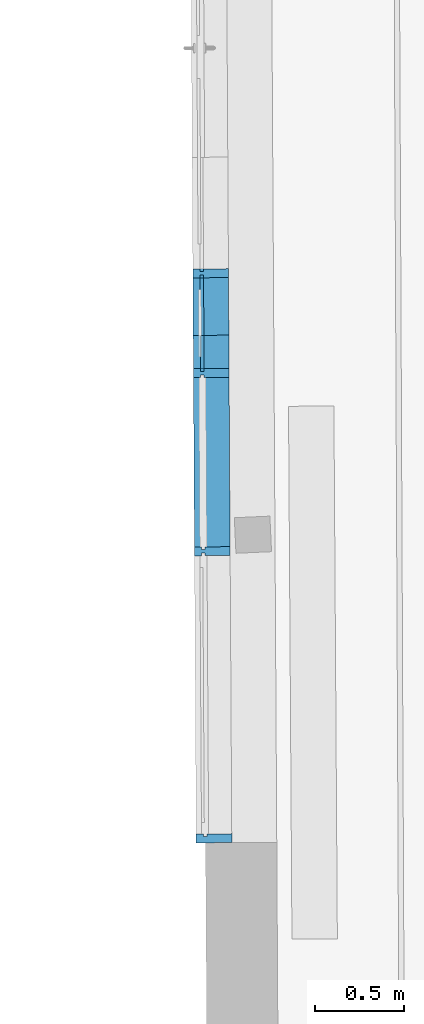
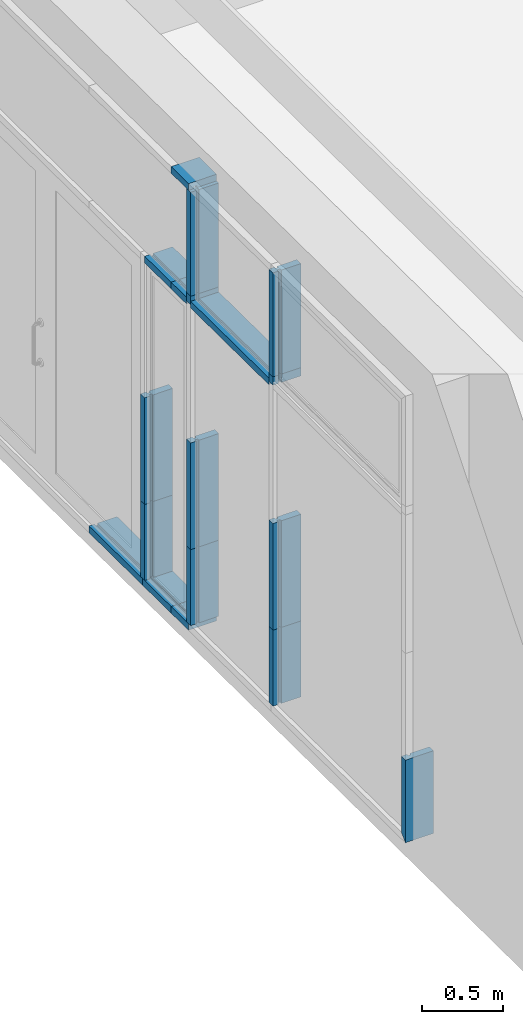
# One storey, part 150 of 196: 18 building element parts, 1 element without a shape of its own.
"""IFC2X3 building model written with IfcOpenShell, lengths in metres."""

import ifcopenshell
import ifcopenshell.guid

model = None  # the IFC model being written
_history = None  # IfcOwnerHistory: only IFC2X3 demands one
_inside = {}  # id of a spatial element -> (the spatial element, [elements in it])
_under = {}  # id of a project, library or spatial element -> (it, [spatial elements below it])
_declared = {}  # id of a project -> (the project, [libraries it declares])
_typed = {}  # id of a type object -> (the type object, [elements of that type])
_made_of = {}  # id of a material, layer set ... -> (it, [elements and type objects made of it])


def new_model(schema):
    """Start an empty IFC model of exactly this schema.

    Asked for "IFC4X3", IfcOpenShell would pick the latest addendum, in which some entities
    have other attributes; the version numbers below select the first issue.
    IFC2X3 requires an IfcOwnerHistory on every rooted entity: one is made here for all.
    """
    global model, _history
    if schema == "IFC4X3":
        model = ifcopenshell.file(schema_version=(4, 3, 0, 0))
    else:
        model = ifcopenshell.file(schema=schema)
    _inside.clear()
    _under.clear()
    _declared.clear()
    _typed.clear()
    _made_of.clear()
    _history = None
    if model.schema == "IFC2X3":
        org = make("IfcOrganization", Name="unknown")
        user = make(
            "IfcPersonAndOrganization",
            ThePerson=make("IfcPerson", FamilyName="unknown"),
            TheOrganization=org,
        )
        app = make(
            "IfcApplication",
            ApplicationDeveloper=org,
            Version="unknown",
            ApplicationFullName="unknown",
            ApplicationIdentifier="unknown",
        )
        _history = make(
            "IfcOwnerHistory",
            OwningUser=user,
            OwningApplication=app,
            ChangeAction="ADDED",
            CreationDate=0,
        )
    return model


def make(cls, **values):
    """One entity of the class cls with the attributes given. An attribute that is None is left unset."""
    return model.create_entity(
        cls, **{name: value for name, value in values.items() if value is not None}
    )


def entity(cls, *values):
    """Any entity or typed value of the class cls, its attributes in the order of the schema. None: left unset."""
    e = model.create_entity(cls)
    for i, value in enumerate(values):
        if value is not None:
            e[i] = value
    return e


def rooted(cls, **values):
    """An entity with a GlobalId (a new one), such as an element, a storey or a relation."""
    return make(cls, GlobalId=ifcopenshell.guid.new(), OwnerHistory=_history, **values)


def si_unit(unit_type, name, prefix=None):
    """IfcSIUnit, for example si_unit("LENGTHUNIT", "METRE", prefix="MILLI")."""
    return make("IfcSIUnit", UnitType=unit_type, Prefix=prefix, Name=name)


def converted_unit(unit_type, name, factor, base, dimensions=None, offset=None):
    """IfcConversionBasedUnit, such as the inch: factor (a typed value) times the base unit."""
    return make(
        "IfcConversionBasedUnit"
        if offset is None
        else "IfcConversionBasedUnitWithOffset",
        ConversionOffset=offset,
        Dimensions=None
        if dimensions is None
        else entity("IfcDimensionalExponents", *dimensions),
        UnitType=unit_type,
        Name=name,
        ConversionFactor=make(
            "IfcMeasureWithUnit", ValueComponent=factor, UnitComponent=base
        ),
    )


def derived_unit(unit_type, elements):
    """IfcDerivedUnit: a product of units, each with its exponent."""
    return make(
        "IfcDerivedUnit",
        Elements=[
            make("IfcDerivedUnitElement", Unit=unit, Exponent=power)
            for unit, power in elements
        ],
        UnitType=unit_type,
    )


def money_unit(currency):
    """IfcMonetaryUnit."""
    return make("IfcMonetaryUnit", Currency=currency)


def assignment(units):
    """IfcUnitAssignment: the units of a project."""
    return None if units is None else make("IfcUnitAssignment", Units=units)


def point(xyz):
    """IfcCartesianPoint."""
    return None if xyz is None else make("IfcCartesianPoint", Coordinates=xyz)


def direction(xyz):
    """IfcDirection."""
    return None if xyz is None else make("IfcDirection", DirectionRatios=xyz)


def frame(location, z_axis=None, x_axis=None):
    """IfcAxis2Placement3D, a coordinate frame: its origin and axes. An axis left out is left unset."""
    return make(
        "IfcAxis2Placement3D",
        Location=point(location),
        Axis=direction(z_axis),
        RefDirection=direction(x_axis),
    )


def origin_with_axes():
    """The frame at (0, 0, 0) with the z axis (0, 0, 1) and the x axis (1, 0, 0) written out."""
    return frame((0.0, 0.0, 0.0), z_axis=(0.0, 0.0, 1.0), x_axis=(1.0, 0.0, 0.0))


def place(relative_to, where):
    """IfcLocalPlacement: puts the frame where relative to a parent placement (None: the world)."""
    return make(
        "IfcLocalPlacement", PlacementRelTo=relative_to, RelativePlacement=where
    )


def context(
    kind, dimensions, precision=None, world=None, true_north=None, identifier=None
):
    """IfcGeometricRepresentationContext, for example the 3D "Model" context."""
    return make(
        "IfcGeometricRepresentationContext",
        ContextIdentifier=identifier,
        ContextType=kind,
        CoordinateSpaceDimension=dimensions,
        Precision=precision,
        WorldCoordinateSystem=world,
        TrueNorth=true_north,
    )


def subcontext(parent, identifier, kind, view, scale=None):
    """IfcGeometricRepresentationSubContext, for example "Body" below "Model"."""
    return make(
        "IfcGeometricRepresentationSubContext",
        ContextIdentifier=identifier,
        ContextType=kind,
        ParentContext=parent,
        TargetScale=scale,
        TargetView=view,
    )


def project(units=None, contexts=None):
    """IfcProject with its units and contexts."""
    return rooted(
        "IfcProject",
        Name="project",
        RepresentationContexts=contexts,
        UnitsInContext=assignment(units),
    )


def spatial(cls, under=None, at=None, **own):
    """A site, building, storey or space (cls), placed at a placement, below another one or the project."""
    s = rooted(cls, ObjectPlacement=at, **own)
    if under is not None:
        _under.setdefault(under.id(), (under, []))[1].append(s)
    return s


def faces_of(points, faces, orient=None, outer=None):
    """IfcFace entities. A face is a list of loops; a loop is a list of indices into points, from 0.

    orient and outer hold one flag for each loop. By default every Orientation is true, the
    first loop of a face is its IfcFaceOuterBound and the others are IfcFaceBound.
    """
    made = []
    for i, loops in enumerate(faces):
        bounds = []
        for j, loop in enumerate(loops):
            is_outer = j == 0 if outer is None else outer[i][j]
            bounds.append(
                make(
                    "IfcFaceOuterBound" if is_outer else "IfcFaceBound",
                    Bound=make("IfcPolyLoop", Polygon=[points[k] for k in loop]),
                    Orientation=True if orient is None else orient[i][j],
                )
            )
        made.append(make("IfcFace", Bounds=bounds))
    return made


def faceted_brep(points, faces, orient=None, outer=None, voids=None):
    """IfcFacetedBrep: a solid bounded by flat faces; with voids (closed shells), ...WithVoids."""
    shared = [point(p) for p in points]
    hull = make("IfcClosedShell", CfsFaces=faces_of(shared, faces, orient, outer))
    if voids is None:
        return make("IfcFacetedBrep", Outer=hull)
    return make(
        "IfcFacetedBrepWithVoids",
        Outer=hull,
        Voids=[
            make(cls, CfsFaces=faces_of(shared, fs, o, b)) for cls, fs, o, b in voids
        ],
    )


def shape(context_of_items, identifier, shape_type, items):
    """IfcShapeRepresentation: the items that make up one representation, for example the "Body"."""
    return make(
        "IfcShapeRepresentation",
        ContextOfItems=context_of_items,
        RepresentationIdentifier=identifier,
        RepresentationType=shape_type,
        Items=items,
    )


def material(Name=None, Category=None):
    """IfcMaterial."""
    return make("IfcMaterial", Name=Name, Category=Category)


def made_of(thing, what):
    """Note that an element or type object is made of a material, layer set ...; save() writes the relation."""
    if what is not None:
        _made_of.setdefault(what.id(), (what, []))[1].append(thing)
    return thing


def type_object(cls, material=None, **own):
    """A type object (cls), such as IfcWallType, which elements share."""
    return made_of(rooted(cls, **own), material)


def element(
    cls,
    number,
    at=None,
    inside=None,
    cuts=None,
    type_object=None,
    material=None,
    context=None,
    identifier="Body",
    shape_type=None,
    held_by="IfcProductDefinitionShape",
    body=None,
    shapes=None,
    **own,
):
    """One element of the class cls, such as IfcWall. Its Tag is "e" and its number.

    at: its placement. inside: the storey or other place that contains it. cuts: it is an
    opening in that element (IfcRelVoidsElement). A single representation is given by context,
    identifier, shape_type and body (its items); several are given by shapes. held_by: the class
    of the entity that holds the representations. save() writes the other relations.
    """
    e = rooted(cls, Tag="e%d" % number, ObjectPlacement=at, **own)
    if body is not None:
        shapes = [shape(context, identifier, shape_type, body)]
    if shapes is not None:
        e.Representation = make(held_by, Representations=shapes)
    if inside is not None:
        _inside.setdefault(inside.id(), (inside, []))[1].append(e)
    if cuts is not None:
        rooted(
            "IfcRelVoidsElement", RelatingBuildingElement=cuts, RelatedOpeningElement=e
        )
    if type_object is not None:
        _typed.setdefault(type_object.id(), (type_object, []))[1].append(e)
    return made_of(e, material)


def aggregate(whole, parts):
    """IfcRelAggregates: a whole, such as a stair, and the parts it consists of."""
    return rooted("IfcRelAggregates", RelatingObject=whole, RelatedObjects=parts)


def save(model, path):
    """Write the relations noted so far, then the file.

    IfcRelAggregates (storeys below a building ...), IfcRelContainedInSpatialStructure (elements
    in a storey), IfcRelDefinesByType, IfcRelAssociatesMaterial and IfcRelDeclares: one each for
    every whole, place, type object, material and project.
    """
    for whole, parts in _under.values():
        aggregate(whole, parts)
    for where, things in _inside.values():
        rooted(
            "IfcRelContainedInSpatialStructure",
            RelatedElements=things,
            RelatingStructure=where,
        )
    for kind, things in _typed.values():
        rooted("IfcRelDefinesByType", RelatedObjects=things, RelatingType=kind)
    for what, things in _made_of.values():
        rooted("IfcRelAssociatesMaterial", RelatedObjects=things, RelatingMaterial=what)
    for by, libraries in _declared.values():
        rooted("IfcRelDeclares", RelatingContext=by, RelatedDefinitions=libraries)
    model.write(path)


model = new_model("IFC2X3")

# Units and contexts
model_context = context("Model", 3, precision=1e-05, world=origin_with_axes(), true_north=direction((0.0, 1.0)))
body_context = subcontext(model_context, "Body", "Model", "MODEL_VIEW")
ifc_project = project(units=[si_unit("LENGTHUNIT", "METRE"), si_unit("AREAUNIT", "SQUARE_METRE"), si_unit("VOLUMEUNIT", "CUBIC_METRE"), converted_unit("PLANEANGLEUNIT", "DEGREE", entity("IfcPlaneAngleMeasure", 0.0174532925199), si_unit("PLANEANGLEUNIT", "RADIAN"), dimensions=[0, 0, 0, 0, 0, 0, 0]), money_unit("EUR"), converted_unit("TIMEUNIT", "Year", entity("IfcTimeMeasure", 31556926.0), si_unit("TIMEUNIT", "SECOND"), dimensions=[0, 0, 1, 0, 0, 0, 0]), si_unit("MASSUNIT", "GRAM", prefix="KILO"), si_unit("THERMODYNAMICTEMPERATUREUNIT", "DEGREE_CELSIUS"), si_unit("LUMINOUSINTENSITYUNIT", "LUMEN"), si_unit("ENERGYUNIT", "JOULE", prefix="MEGA"), derived_unit("THERMALCONDUCTANCEUNIT", [(si_unit("POWERUNIT", "WATT"), 1), (si_unit("LENGTHUNIT", "METRE"), -1), (si_unit("THERMODYNAMICTEMPERATUREUNIT", "KELVIN"), -1)]), derived_unit("SPECIFICHEATCAPACITYUNIT", [(si_unit("ENERGYUNIT", "JOULE"), 1), (si_unit("MASSUNIT", "GRAM", prefix="KILO"), -1), (si_unit("THERMODYNAMICTEMPERATUREUNIT", "KELVIN"), -1)]), derived_unit("MASSDENSITYUNIT", [(si_unit("MASSUNIT", "GRAM", prefix="KILO"), 1), (si_unit("VOLUMEUNIT", "CUBIC_METRE"), -1)])], contexts=[model_context])

# Site, building, storey
site_placement = place(None, origin_with_axes())
site = spatial("IfcSite", under=ifc_project, at=site_placement, Name="Gelände", CompositionType="ELEMENT")
building_placement = place(site_placement, origin_with_axes())
building = spatial("IfcBuilding", under=site, at=building_placement, Name="Gebäude", CompositionType="ELEMENT")
storey_placement = place(building_placement, frame((0.0, 0.0, -3.0), z_axis=(0.0, 0.0, 1.0), x_axis=(1.0, 0.0, 0.0)))
storey = spatial("IfcBuildingStorey", under=building, at=storey_placement, Name="KELLERGESCHOSS", CompositionType="ELEMENT", Elevation=-3.0)

# Proxy, building element parts
building_element_proxy_type = type_object("IfcBuildingElementProxyType", Name="Fassadentyp", PredefinedType="NOTDEFINED")
proxy_placement = place(storey_placement, frame((-34.8766751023, 40.9954775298, 0.421025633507), z_axis=(0.0, 0.0, 1.0), x_axis=(1.0, 0.0, 0.0)))
proxy = element("IfcBuildingElementProxy", 1, at=proxy_placement, inside=storey, type_object=building_element_proxy_type, Name="Fassade-002")
ifc_material = material(Name="53_Metall, Aluminium")
building_element_part_1_placement = place(proxy_placement, origin_with_axes())
building_element_part_1 = element("IfcBuildingElementPart", 2, at=building_element_part_1_placement, material=ifc_material, Name="53_Metall, Aluminium", context=body_context, shape_type="Brep", body=[
    faceted_brep([(0.0252966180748, -2.60816966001, 0.0499999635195), (0.0252086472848, -2.59316991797, 0.0499999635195), (0.165206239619, -2.59234885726, 0.0499999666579), (0.165499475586, -2.64234799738, 0.0499999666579), (0.0255018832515, -2.64316905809, 0.0499999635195), (0.0254139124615, -2.62816931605, 0.0499999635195), (0.00541425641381, -2.62828661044, 0.0499999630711), (0.00550222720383, -2.64328635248, 0.0499999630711), (-0.0344970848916, -2.64352094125, 0.0499999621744), (-0.0347903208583, -2.59352180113, 0.0499999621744), (0.00520899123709, -2.59328721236, 0.0499999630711), (0.00529696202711, -2.60828695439, 0.0499999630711), (0.0252966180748, -2.60816966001, 0.619999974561), (0.0252086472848, -2.59316991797, 0.619999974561), (0.165206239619, -2.59234885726, 0.619999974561), (0.165499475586, -2.64234799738, 0.619999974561), (0.0255018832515, -2.64316905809, 0.619999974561), (0.0254139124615, -2.62816931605, 0.619999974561), (0.00541425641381, -2.62828661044, 0.619999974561), (0.00550222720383, -2.64328635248, 0.619999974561), (-0.0344970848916, -2.64352094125, 0.619999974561), (-0.0347903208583, -2.59352180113, 0.619999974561), (0.00520899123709, -2.59328721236, 0.619999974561), (0.00529696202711, -2.60828695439, 0.619999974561)], [[[0, 1, 2, 3, 4, 5, 6, 7, 8, 9, 10, 11]], [[1, 0, 12, 13]], [[1, 13, 14, 2]], [[3, 2, 14, 15]], [[4, 3, 15, 16]], [[4, 16, 17, 5]], [[5, 17, 18, 6]], [[7, 6, 18, 19]], [[19, 20, 8, 7]], [[9, 8, 20, 21]], [[22, 10, 9, 21]], [[11, 10, 22, 23]], [[0, 11, 23, 12]], [[23, 22, 21, 20, 19, 18, 17, 16, 15, 14, 13, 12]]]),
])
building_element_part_2_placement = place(proxy_placement, origin_with_axes())
building_element_part_2 = element("IfcBuildingElementPart", 3, at=building_element_part_2_placement, material=ifc_material, Name="53_Metall, Aluminium", context=body_context, shape_type="Brep", body=[
    faceted_brep([(0.0182412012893, -1.40516316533, 0.034999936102), (-0.00175845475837, -1.40528045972, 0.034999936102), (-0.00175845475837, -1.40528045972, 0.049999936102), (-0.0417577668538, -1.40551504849, 0.049999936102), (-0.0417577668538, -1.40551504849, -6.38979704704e-08), (0.158238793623, -1.40434210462, -6.38979704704e-08), (0.158238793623, -1.40434210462, 0.049999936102), (0.0182412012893, -1.40516316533, 0.049999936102), (0.0161990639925, -1.05696198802, 0.034999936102), (-0.00380059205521, -1.05707928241, 0.034999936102), (-0.00380059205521, -1.05707928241, 0.049999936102), (-0.0437999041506, -1.05731387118, 0.049999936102), (-0.0437999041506, -1.05731387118, -6.38979704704e-08), (0.156196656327, -1.05614092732, -6.38979704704e-08), (0.156196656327, -1.05614092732, 0.049999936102), (0.0161990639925, -1.05696198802, 0.049999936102)], [[[0, 1, 2, 3, 4, 5, 6, 7]], [[1, 0, 8, 9]], [[10, 2, 1, 9]], [[2, 10, 11, 3]], [[12, 4, 3, 11]], [[13, 5, 4, 12]], [[14, 6, 5, 13]], [[15, 7, 6, 14]], [[0, 7, 15, 8]], [[8, 15, 14, 13, 12, 11, 10, 9]]]),
])
building_element_part_3_placement = place(proxy_placement, origin_with_axes())
building_element_part_3 = element("IfcBuildingElementPart", 4, at=building_element_part_3_placement, material=ifc_material, Name="53_Metall, Aluminium", context=body_context, shape_type="Brep", body=[
    faceted_brep([(0.0254139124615, -2.62816931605, 2.51999997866), (0.0255018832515, -2.64316905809, 2.51999997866), (0.165499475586, -2.64234799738, 2.51999997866), (0.165206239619, -2.59234885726, 2.51999997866), (0.0252086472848, -2.59316991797, 2.51999997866), (0.0252966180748, -2.60816966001, 2.51999997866), (0.00529696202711, -2.60828695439, 2.51999997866), (0.00520899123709, -2.59328721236, 2.51999997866), (-0.0347903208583, -2.59352180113, 2.51999997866), (-0.0344970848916, -2.64352094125, 2.51999997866), (0.00550222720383, -2.64328635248, 2.51999997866), (0.00541425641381, -2.62828661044, 2.51999997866), (0.0254139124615, -2.62816931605, 2.45764331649), (0.0255018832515, -2.64316905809, 2.45764331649), (0.165499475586, -2.64234799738, 2.45764331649), (0.165206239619, -2.59234885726, 2.45764331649), (0.0252086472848, -2.59316991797, 2.45764331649), (0.0252966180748, -2.60816966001, 2.45764331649), (0.00529696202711, -2.60828695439, 2.45764331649), (0.00520899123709, -2.59328721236, 2.45764331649), (-0.0347903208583, -2.59352180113, 2.45764331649), (-0.0344970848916, -2.64352094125, 2.45764331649), (0.00550222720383, -2.64328635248, 2.45764331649), (0.00541425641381, -2.62828661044, 2.45764331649)], [[[0, 1, 2, 3, 4, 5, 6, 7, 8, 9, 10, 11]], [[1, 0, 12, 13]], [[1, 13, 14, 2]], [[3, 2, 14, 15]], [[4, 3, 15, 16]], [[4, 16, 17, 5]], [[5, 17, 18, 6]], [[7, 6, 18, 19]], [[19, 20, 8, 7]], [[9, 8, 20, 21]], [[22, 10, 9, 21]], [[11, 10, 22, 23]], [[0, 11, 23, 12]], [[23, 22, 21, 20, 19, 18, 17, 16, 15, 14, 13, 12]]]),
])
building_element_part_4_placement = place(proxy_placement, origin_with_axes())
building_element_part_4 = element("IfcBuildingElementPart", 5, at=building_element_part_4_placement, material=ifc_material, Name="53_Metall, Aluminium", context=body_context, shape_type="Brep", body=[
    faceted_brep([(0.0162577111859, -1.06696181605, 0.619999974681), (0.0163456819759, -1.08196155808, 0.619999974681), (0.15634327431, -1.08114049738, 0.619999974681), (0.156050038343, -1.03114135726, 0.619999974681), (0.0160524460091, -1.03196241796, 0.619999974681), (0.0161404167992, -1.04696216, 0.619999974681), (-0.00385923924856, -1.04707945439, 0.619999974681), (-0.00394721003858, -1.03207971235, 0.619999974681), (-0.043946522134, -1.03231430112, 0.619999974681), (-0.0436532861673, -1.08231344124, 0.619999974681), (-0.00365397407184, -1.08207885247, 0.619999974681), (-0.00374194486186, -1.06707911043, 0.619999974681), (0.0162577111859, -1.06696181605, 0.0499999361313), (0.0163456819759, -1.08196155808, 0.0499999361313), (0.15634327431, -1.08114049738, 0.0499999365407), (0.156050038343, -1.03114135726, 0.0499999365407), (0.0160524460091, -1.03196241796, 0.0499999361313), (0.0161404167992, -1.04696216, 0.0499999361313), (-0.00385923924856, -1.04707945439, 0.0499999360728), (-0.00394721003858, -1.03207971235, 0.0499999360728), (-0.043946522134, -1.03231430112, 0.0499999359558), (-0.0436532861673, -1.08231344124, 0.0499999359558), (-0.00365397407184, -1.08207885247, 0.0499999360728), (-0.00374194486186, -1.06707911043, 0.0499999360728)], [[[0, 1, 2, 3, 4, 5, 6, 7, 8, 9, 10, 11]], [[1, 0, 12, 13]], [[1, 13, 14, 2]], [[2, 14, 15, 3]], [[4, 3, 15, 16]], [[4, 16, 17, 5]], [[5, 17, 18, 6]], [[7, 6, 18, 19]], [[19, 20, 8, 7]], [[8, 20, 21, 9]], [[22, 10, 9, 21]], [[11, 10, 22, 23]], [[0, 11, 23, 12]], [[23, 22, 21, 20, 19, 18, 17, 16, 15, 14, 13, 12]]]),
])
building_element_part_5_placement = place(proxy_placement, origin_with_axes())
building_element_part_5 = element("IfcBuildingElementPart", 6, at=building_element_part_5_placement, material=ifc_material, Name="53_Metall, Aluminium", context=body_context, shape_type="Brep", body=[
    faceted_brep([(0.0161990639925, -1.05696198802, 0.034999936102), (-0.00380059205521, -1.05707928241, 0.034999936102), (-0.00380059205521, -1.05707928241, 0.049999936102), (-0.0437999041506, -1.05731387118, 0.049999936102), (-0.0437999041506, -1.05731387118, -6.38979709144e-08), (0.156196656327, -1.05614092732, -6.38979709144e-08), (0.156196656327, -1.05614092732, 0.049999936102), (0.0161990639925, -1.05696198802, 0.049999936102), (0.0123764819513, -0.405180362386, 0.034999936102), (-0.0076231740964, -0.405297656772, 0.034999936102), (-0.0076231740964, -0.405297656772, 0.049999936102), (-0.0476224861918, -0.405532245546, 0.049999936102), (-0.0476224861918, -0.405532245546, -6.38979709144e-08), (0.152374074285, -0.404359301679, -6.38979709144e-08), (0.152374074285, -0.404359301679, 0.049999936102), (0.0123764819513, -0.405180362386, 0.049999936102)], [[[0, 1, 2, 3, 4, 5, 6, 7]], [[1, 0, 8, 9]], [[10, 2, 1, 9]], [[2, 10, 11, 3]], [[12, 4, 3, 11]], [[13, 5, 4, 12]], [[14, 6, 5, 13]], [[15, 7, 6, 14]], [[0, 7, 15, 8]], [[8, 15, 14, 13, 12, 11, 10, 9]]]),
])
building_element_part_6_placement = place(proxy_placement, origin_with_axes())
building_element_part_6 = element("IfcBuildingElementPart", 7, at=building_element_part_6_placement, material=ifc_material, Name="53_Metall, Aluminium", context=body_context, shape_type="Brep", body=[
    faceted_brep([(0.0254139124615, -2.62816931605, 1.41999997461), (0.0255018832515, -2.64316905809, 1.41999997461), (0.165499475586, -2.64234799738, 1.41999997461), (0.165206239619, -2.59234885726, 1.41999997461), (0.0252086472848, -2.59316991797, 1.41999997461), (0.0252966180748, -2.60816966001, 1.41999997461), (0.00529696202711, -2.60828695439, 1.41999997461), (0.00520899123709, -2.59328721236, 1.41999997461), (-0.0347903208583, -2.59352180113, 1.41999997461), (-0.0344970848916, -2.64352094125, 1.41999997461), (0.00550222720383, -2.64328635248, 1.41999997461), (0.00541425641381, -2.62828661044, 1.41999997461), (0.0254139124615, -2.62816931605, 0.619999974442), (0.0255018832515, -2.64316905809, 0.619999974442), (0.165499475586, -2.64234799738, 0.619999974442), (0.165206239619, -2.59234885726, 0.619999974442), (0.0252086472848, -2.59316991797, 0.619999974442), (0.0252966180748, -2.60816966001, 0.619999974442), (0.00529696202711, -2.60828695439, 0.619999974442), (0.00520899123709, -2.59328721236, 0.619999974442), (-0.0347903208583, -2.59352180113, 0.619999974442), (-0.0344970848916, -2.64352094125, 0.619999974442), (0.00550222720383, -2.64328635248, 0.619999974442), (0.00541425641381, -2.62828661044, 0.619999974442)], [[[0, 1, 2, 3, 4, 5, 6, 7, 8, 9, 10, 11]], [[1, 0, 12, 13]], [[1, 13, 14, 2]], [[3, 2, 14, 15]], [[4, 3, 15, 16]], [[4, 16, 17, 5]], [[5, 17, 18, 6]], [[7, 6, 18, 19]], [[19, 20, 8, 7]], [[9, 8, 20, 21]], [[22, 10, 9, 21]], [[11, 10, 22, 23]], [[0, 11, 23, 12]], [[23, 22, 21, 20, 19, 18, 17, 16, 15, 14, 13, 12]]]),
])
building_element_part_7_placement = place(proxy_placement, origin_with_axes())
building_element_part_7 = element("IfcBuildingElementPart", 8, at=building_element_part_7_placement, material=ifc_material, Name="53_Metall, Aluminium", context=body_context, shape_type="Brep", body=[
    faceted_brep([(0.0193398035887, -1.5924838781, 2.44764331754), (0.0193398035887, -1.5924838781, 2.43264331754), (0.159337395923, -1.59166281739, 2.43264331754), (0.159337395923, -1.59166281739, 2.48264331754), (0.0193398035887, -1.5924838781, 2.48264331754), (0.0193398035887, -1.5924838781, 2.46764331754), (-0.000659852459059, -1.59260117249, 2.46764331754), (-0.000659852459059, -1.59260117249, 2.48264331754), (-0.0406591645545, -1.59283576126, 2.48264331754), (-0.0406591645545, -1.59283576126, 2.43264331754), (-0.000659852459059, -1.59260117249, 2.43264331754), (-0.000659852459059, -1.59260117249, 2.44764331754), (0.0182412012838, -1.40516316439, 2.44764331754), (0.0182412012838, -1.40516316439, 2.43264331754), (0.158238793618, -1.40434210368, 2.43264331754), (0.158238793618, -1.40434210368, 2.48264331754), (0.0182412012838, -1.40516316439, 2.48264331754), (0.0182412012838, -1.40516316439, 2.46764331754), (-0.00175845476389, -1.40528045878, 2.46764331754), (-0.00175845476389, -1.40528045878, 2.48264331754), (-0.0417577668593, -1.40551504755, 2.48264331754), (-0.0417577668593, -1.40551504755, 2.43264331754), (-0.00175845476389, -1.40528045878, 2.43264331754), (-0.00175845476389, -1.40528045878, 2.44764331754)], [[[0, 1, 2, 3, 4, 5, 6, 7, 8, 9, 10, 11]], [[1, 0, 12, 13]], [[1, 13, 14, 2]], [[3, 2, 14, 15]], [[4, 3, 15, 16]], [[4, 16, 17, 5]], [[5, 17, 18, 6]], [[7, 6, 18, 19]], [[19, 20, 8, 7]], [[9, 8, 20, 21]], [[22, 10, 9, 21]], [[11, 10, 22, 23]], [[0, 11, 23, 12]], [[23, 22, 21, 20, 19, 18, 17, 16, 15, 14, 13, 12]]]),
])
building_element_part_8_placement = place(proxy_placement, origin_with_axes())
building_element_part_8 = element("IfcBuildingElementPart", 9, at=building_element_part_8_placement, material=ifc_material, Name="53_Metall, Aluminium", context=body_context, shape_type="Brep", body=[
    faceted_brep([(0.0195450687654, -1.62748327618, 2.51999997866), (0.0196330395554, -1.64248301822, 2.51999997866), (0.159630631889, -1.64166195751, 2.51999997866), (0.159337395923, -1.59166281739, 2.51999997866), (0.0193398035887, -1.5924838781, 2.51999997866), (0.0194277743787, -1.60748362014, 2.51999997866), (-0.000571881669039, -1.60760091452, 2.51999997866), (-0.000659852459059, -1.59260117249, 2.51999997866), (-0.0406591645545, -1.59283576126, 2.51999997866), (-0.0403659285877, -1.64283490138, 2.51999997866), (-0.000366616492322, -1.64260031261, 2.51999997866), (-0.000454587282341, -1.62760057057, 2.51999997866), (0.0195450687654, -1.62748327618, 2.45764331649), (0.0196330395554, -1.64248301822, 2.45764331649), (0.159630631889, -1.64166195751, 2.45764331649), (0.159337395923, -1.59166281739, 2.45764331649), (0.0193398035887, -1.5924838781, 2.45764331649), (0.0194277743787, -1.60748362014, 2.45764331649), (-0.000571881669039, -1.60760091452, 2.45764331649), (-0.000659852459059, -1.59260117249, 2.45764331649), (-0.0406591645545, -1.59283576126, 2.45764331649), (-0.0403659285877, -1.64283490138, 2.45764331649), (-0.000366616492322, -1.64260031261, 2.45764331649), (-0.000454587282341, -1.62760057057, 2.45764331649)], [[[0, 1, 2, 3, 4, 5, 6, 7, 8, 9, 10, 11]], [[1, 0, 12, 13]], [[1, 13, 14, 2]], [[3, 2, 14, 15]], [[4, 3, 15, 16]], [[4, 16, 17, 5]], [[5, 17, 18, 6]], [[7, 6, 18, 19]], [[19, 20, 8, 7]], [[9, 8, 20, 21]], [[22, 10, 9, 21]], [[11, 10, 22, 23]], [[0, 11, 23, 12]], [[23, 22, 21, 20, 19, 18, 17, 16, 15, 14, 13, 12]]]),
])
building_element_part_9_placement = place(proxy_placement, origin_with_axes())
building_element_part_9 = element("IfcBuildingElementPart", 10, at=building_element_part_9_placement, material=ifc_material, Name="53_Metall, Aluminium", context=body_context, shape_type="Brep", body=[
    faceted_brep([(0.0195450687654, -1.62748327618, 3.29999988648), (0.0196330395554, -1.64248301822, 3.29999988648), (0.159630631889, -1.64166195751, 3.29999988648), (0.159337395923, -1.59166281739, 3.29999988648), (0.0193398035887, -1.5924838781, 3.29999988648), (0.0194277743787, -1.60748362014, 3.29999988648), (-0.000571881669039, -1.60760091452, 3.29999988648), (-0.000659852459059, -1.59260117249, 3.29999988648), (-0.0406591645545, -1.59283576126, 3.29999988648), (-0.0403659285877, -1.64283490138, 3.29999988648), (-0.000366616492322, -1.64260031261, 3.29999988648), (-0.000454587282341, -1.62760057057, 3.29999988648), (0.0195450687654, -1.62748327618, 2.51999997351), (0.0196330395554, -1.64248301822, 2.51999997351), (0.159630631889, -1.64166195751, 2.51999997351), (0.159337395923, -1.59166281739, 2.51999997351), (0.0193398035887, -1.5924838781, 2.51999997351), (0.0194277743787, -1.60748362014, 2.51999997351), (-0.000571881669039, -1.60760091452, 2.51999997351), (-0.000659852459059, -1.59260117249, 2.51999997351), (-0.0406591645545, -1.59283576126, 2.51999997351), (-0.0403659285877, -1.64283490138, 2.51999997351), (-0.000366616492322, -1.64260031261, 2.51999997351), (-0.000454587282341, -1.62760057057, 2.51999997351)], [[[0, 1, 2, 3, 4, 5, 6, 7, 8, 9, 10, 11]], [[1, 0, 12, 13]], [[1, 13, 14, 2]], [[3, 2, 14, 15]], [[4, 3, 15, 16]], [[4, 16, 17, 5]], [[5, 17, 18, 6]], [[7, 6, 18, 19]], [[19, 20, 8, 7]], [[9, 8, 20, 21]], [[22, 10, 9, 21]], [[11, 10, 22, 23]], [[0, 11, 23, 12]], [[23, 22, 21, 20, 19, 18, 17, 16, 15, 14, 13, 12]]]),
])
building_element_part_10_placement = place(proxy_placement, origin_with_axes())
building_element_part_10 = element("IfcBuildingElementPart", 11, at=building_element_part_10_placement, material=ifc_material, Name="53_Metall, Aluminium", context=body_context, shape_type="Brep", body=[
    faceted_brep([(0.0195450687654, -1.62748327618, 0.619999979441), (0.0196330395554, -1.64248301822, 0.619999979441), (0.159630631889, -1.64166195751, 0.619999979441), (0.159337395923, -1.59166281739, 0.619999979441), (0.0193398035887, -1.5924838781, 0.619999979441), (0.0194277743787, -1.60748362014, 0.619999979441), (-0.000571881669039, -1.60760091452, 0.619999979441), (-0.000659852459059, -1.59260117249, 0.619999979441), (-0.0406591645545, -1.59283576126, 0.619999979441), (-0.0403659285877, -1.64283490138, 0.619999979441), (-0.000366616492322, -1.64260031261, 0.619999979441), (-0.000454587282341, -1.62760057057, 0.619999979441), (0.0195450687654, -1.62748327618, 0.0499999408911), (0.0196330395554, -1.64248301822, 0.0499999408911), (0.159630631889, -1.64166195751, 0.0499999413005), (0.159337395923, -1.59166281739, 0.0499999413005), (0.0193398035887, -1.5924838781, 0.0499999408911), (0.0194277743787, -1.60748362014, 0.0499999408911), (-0.000571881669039, -1.60760091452, 0.0499999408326), (-0.000659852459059, -1.59260117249, 0.0499999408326), (-0.0406591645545, -1.59283576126, 0.0499999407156), (-0.0403659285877, -1.64283490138, 0.0499999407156), (-0.000366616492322, -1.64260031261, 0.0499999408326), (-0.000454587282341, -1.62760057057, 0.0499999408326)], [[[0, 1, 2, 3, 4, 5, 6, 7, 8, 9, 10, 11]], [[1, 0, 12, 13]], [[1, 13, 14, 2]], [[2, 14, 15, 3]], [[4, 3, 15, 16]], [[4, 16, 17, 5]], [[5, 17, 18, 6]], [[7, 6, 18, 19]], [[19, 20, 8, 7]], [[8, 20, 21, 9]], [[22, 10, 9, 21]], [[11, 10, 22, 23]], [[0, 11, 23, 12]], [[23, 22, 21, 20, 19, 18, 17, 16, 15, 14, 13, 12]]]),
])
building_element_part_11_placement = place(proxy_placement, origin_with_axes())
building_element_part_11 = element("IfcBuildingElementPart", 12, at=building_element_part_11_placement, material=ifc_material, Name="53_Metall, Aluminium", context=body_context, shape_type="Brep", body=[
    faceted_brep([(0.019486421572, -1.61748344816, 0.034999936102), (-0.00051323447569, -1.61760074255, 0.034999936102), (-0.00051323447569, -1.61760074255, 0.049999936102), (-0.0405125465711, -1.61783533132, 0.049999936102), (-0.0405125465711, -1.61783533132, -6.38979704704e-08), (0.159484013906, -1.61666238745, -6.38979704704e-08), (0.159484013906, -1.61666238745, 0.049999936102), (0.019486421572, -1.61748344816, 0.049999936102), (0.0182412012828, -1.40516316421, 0.034999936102), (-0.00175845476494, -1.4052804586, 0.034999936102), (-0.00175845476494, -1.4052804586, 0.049999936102), (-0.0417577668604, -1.40551504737, 0.049999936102), (-0.0417577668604, -1.40551504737, -6.38979704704e-08), (0.158238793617, -1.4043421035, -6.38979704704e-08), (0.158238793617, -1.4043421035, 0.049999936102), (0.0182412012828, -1.40516316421, 0.049999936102)], [[[0, 1, 2, 3, 4, 5, 6, 7]], [[1, 0, 8, 9]], [[10, 2, 1, 9]], [[2, 10, 11, 3]], [[12, 4, 3, 11]], [[13, 5, 4, 12]], [[14, 6, 5, 13]], [[15, 7, 6, 14]], [[0, 7, 15, 8]], [[8, 15, 14, 13, 12, 11, 10, 9]]]),
])
building_element_part_12_placement = place(proxy_placement, origin_with_axes())
building_element_part_12 = element("IfcBuildingElementPart", 13, at=building_element_part_12_placement, material=ifc_material, Name="53_Metall, Aluminium", context=body_context, shape_type="Brep", body=[
    faceted_brep([(0.0162577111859, -1.06696181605, 1.41999997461), (0.0163456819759, -1.08196155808, 1.41999997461), (0.15634327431, -1.08114049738, 1.41999997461), (0.156050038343, -1.03114135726, 1.41999997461), (0.0160524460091, -1.03196241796, 1.41999997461), (0.0161404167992, -1.04696216, 1.41999997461), (-0.00385923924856, -1.04707945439, 1.41999997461), (-0.00394721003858, -1.03207971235, 1.41999997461), (-0.043946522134, -1.03231430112, 1.41999997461), (-0.0436532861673, -1.08231344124, 1.41999997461), (-0.00365397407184, -1.08207885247, 1.41999997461), (-0.00374194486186, -1.06707911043, 1.41999997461), (0.0162577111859, -1.06696181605, 0.619999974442), (0.0163456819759, -1.08196155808, 0.619999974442), (0.15634327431, -1.08114049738, 0.619999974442), (0.156050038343, -1.03114135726, 0.619999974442), (0.0160524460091, -1.03196241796, 0.619999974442), (0.0161404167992, -1.04696216, 0.619999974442), (-0.00385923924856, -1.04707945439, 0.619999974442), (-0.00394721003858, -1.03207971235, 0.619999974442), (-0.043946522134, -1.03231430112, 0.619999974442), (-0.0436532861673, -1.08231344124, 0.619999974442), (-0.00365397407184, -1.08207885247, 0.619999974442), (-0.00374194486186, -1.06707911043, 0.619999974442)], [[[0, 1, 2, 3, 4, 5, 6, 7, 8, 9, 10, 11]], [[1, 0, 12, 13]], [[1, 13, 14, 2]], [[3, 2, 14, 15]], [[4, 3, 15, 16]], [[4, 16, 17, 5]], [[5, 17, 18, 6]], [[7, 6, 18, 19]], [[19, 20, 8, 7]], [[9, 8, 20, 21]], [[22, 10, 9, 21]], [[11, 10, 22, 23]], [[0, 11, 23, 12]], [[23, 22, 21, 20, 19, 18, 17, 16, 15, 14, 13, 12]]]),
])
building_element_part_13_placement = place(proxy_placement, origin_with_axes())
building_element_part_13 = element("IfcBuildingElementPart", 14, at=building_element_part_13_placement, material=ifc_material, Name="53_Metall, Aluminium", context=body_context, shape_type="Brep", body=[
    faceted_brep([(0.0195450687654, -1.62748327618, 1.41999997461), (0.0196330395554, -1.64248301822, 1.41999997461), (0.159630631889, -1.64166195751, 1.41999997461), (0.159337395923, -1.59166281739, 1.41999997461), (0.0193398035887, -1.5924838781, 1.41999997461), (0.0194277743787, -1.60748362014, 1.41999997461), (-0.000571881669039, -1.60760091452, 1.41999997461), (-0.000659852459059, -1.59260117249, 1.41999997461), (-0.0406591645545, -1.59283576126, 1.41999997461), (-0.0403659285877, -1.64283490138, 1.41999997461), (-0.000366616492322, -1.64260031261, 1.41999997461), (-0.000454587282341, -1.62760057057, 1.41999997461), (0.0195450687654, -1.62748327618, 0.619999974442), (0.0196330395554, -1.64248301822, 0.619999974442), (0.159630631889, -1.64166195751, 0.619999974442), (0.159337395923, -1.59166281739, 0.619999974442), (0.0193398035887, -1.5924838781, 0.619999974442), (0.0194277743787, -1.60748362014, 0.619999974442), (-0.000571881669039, -1.60760091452, 0.619999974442), (-0.000659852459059, -1.59260117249, 0.619999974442), (-0.0406591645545, -1.59283576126, 0.619999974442), (-0.0403659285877, -1.64283490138, 0.619999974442), (-0.000366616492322, -1.64260031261, 0.619999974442), (-0.000454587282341, -1.62760057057, 0.619999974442)], [[[0, 1, 2, 3, 4, 5, 6, 7, 8, 9, 10, 11]], [[1, 0, 12, 13]], [[1, 13, 14, 2]], [[3, 2, 14, 15]], [[4, 3, 15, 16]], [[4, 16, 17, 5]], [[5, 17, 18, 6]], [[7, 6, 18, 19]], [[19, 20, 8, 7]], [[9, 8, 20, 21]], [[22, 10, 9, 21]], [[11, 10, 22, 23]], [[0, 11, 23, 12]], [[23, 22, 21, 20, 19, 18, 17, 16, 15, 14, 13, 12]]]),
])
building_element_part_14_placement = place(proxy_placement, origin_with_axes())
building_element_part_14 = element("IfcBuildingElementPart", 15, at=building_element_part_14_placement, material=ifc_material, Name="53_Metall, Aluminium", context=body_context, shape_type="Brep", body=[
    faceted_brep([(0.0182412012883, -1.40516316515, 2.44764332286), (0.0182412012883, -1.40516316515, 2.43264332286), (0.158238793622, -1.40434210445, 2.43264332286), (0.158238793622, -1.40434210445, 2.48264332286), (0.0182412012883, -1.40516316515, 2.48264332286), (0.0182412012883, -1.40516316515, 2.46764332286), (-0.00175845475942, -1.40528045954, 2.46764332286), (-0.00175845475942, -1.40528045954, 2.48264332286), (-0.0417577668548, -1.40551504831, 2.48264332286), (-0.0417577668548, -1.40551504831, 2.43264332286), (-0.00175845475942, -1.40528045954, 2.43264332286), (-0.00175845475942, -1.40528045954, 2.44764332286), (0.0163456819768, -1.08196155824, 2.44764332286), (0.0163456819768, -1.08196155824, 2.43264332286), (0.156343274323, -1.08114049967, 2.43264332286), (0.156343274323, -1.08114049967, 2.48264332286), (0.0163456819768, -1.08196155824, 2.48264332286), (0.0163456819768, -1.08196155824, 2.46764332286), (-0.00365397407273, -1.08207885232, 2.46764332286), (-0.00365397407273, -1.08207885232, 2.48264332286), (-0.0436532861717, -1.08231344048, 2.48264332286), (-0.0436532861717, -1.08231344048, 2.43264332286), (-0.00365397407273, -1.08207885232, 2.43264332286), (-0.00365397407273, -1.08207885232, 2.44764332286)], [[[0, 1, 2, 3, 4, 5, 6, 7, 8, 9, 10, 11]], [[1, 0, 12, 13]], [[1, 13, 14, 2]], [[2, 14, 15, 3]], [[4, 3, 15, 16]], [[4, 16, 17, 5]], [[5, 17, 18, 6]], [[7, 6, 18, 19]], [[19, 20, 8, 7]], [[8, 20, 21, 9]], [[22, 10, 9, 21]], [[11, 10, 22, 23]], [[0, 11, 23, 12]], [[23, 22, 21, 20, 19, 18, 17, 16, 15, 14, 13, 12]]]),
])
building_element_part_15_placement = place(proxy_placement, origin_with_axes())
building_element_part_15 = element("IfcBuildingElementPart", 16, at=building_element_part_15_placement, material=ifc_material, Name="53_Metall, Aluminium", context=body_context, shape_type="Brep", body=[
    faceted_brep([(0.0347523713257, -4.22045323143, 0.620000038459), (0.0147527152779, -4.22057052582, 0.620000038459), (0.0146647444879, -4.20557078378, 0.620000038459), (-0.0253345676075, -4.20580537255, 0.620000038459), (-0.0250413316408, -4.25580451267, 0.620000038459), (0.174955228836, -4.25463156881, 0.620000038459), (0.17466199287, -4.20463242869, 0.620000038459), (0.0346644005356, -4.20545348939, 0.620000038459), (0.0347523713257, -4.22045323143, 0.035), (0.0147527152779, -4.22057052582, 0.035), (0.0146647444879, -4.20557078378, 0.05), (-0.0253345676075, -4.20580537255, 0.05), (-0.0250413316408, -4.25580451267, 0.0), (0.174955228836, -4.25463156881, 0.0), (0.17466199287, -4.20463242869, 0.05), (0.0346644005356, -4.20545348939, 0.05)], [[[0, 1, 2, 3, 4, 5, 6, 7]], [[1, 0, 8, 9]], [[10, 2, 1, 9]], [[2, 10, 11, 3]], [[4, 3, 11, 12]], [[5, 4, 12, 13]], [[6, 5, 13, 14]], [[15, 7, 6, 14]], [[0, 7, 15, 8]], [[8, 15, 14, 13, 12, 11, 10, 9]]]),
])
building_element_part_16_placement = place(proxy_placement, origin_with_axes())
building_element_part_16 = element("IfcBuildingElementPart", 17, at=building_element_part_16_placement, material=ifc_material, Name="53_Metall, Aluminium", context=body_context, shape_type="Brep", body=[
    faceted_brep([(0.0254139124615, -2.62816931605, 3.29999988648), (0.0255018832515, -2.64316905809, 3.29999988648), (0.165499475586, -2.64234799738, 3.29999988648), (0.165206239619, -2.59234885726, 3.29999988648), (0.0252086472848, -2.59316991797, 3.29999988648), (0.0252966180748, -2.60816966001, 3.29999988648), (0.00529696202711, -2.60828695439, 3.29999988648), (0.00520899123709, -2.59328721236, 3.29999988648), (-0.0347903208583, -2.59352180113, 3.29999988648), (-0.0344970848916, -2.64352094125, 3.29999988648), (0.00550222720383, -2.64328635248, 3.29999988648), (0.00541425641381, -2.62828661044, 3.29999988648), (0.0254139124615, -2.62816931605, 2.51999997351), (0.0255018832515, -2.64316905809, 2.51999997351), (0.165499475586, -2.64234799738, 2.51999997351), (0.165206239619, -2.59234885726, 2.51999997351), (0.0252086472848, -2.59316991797, 2.51999997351), (0.0252966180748, -2.60816966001, 2.51999997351), (0.00529696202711, -2.60828695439, 2.51999997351), (0.00520899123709, -2.59328721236, 2.51999997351), (-0.0347903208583, -2.59352180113, 2.51999997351), (-0.0344970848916, -2.64352094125, 2.51999997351), (0.00550222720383, -2.64328635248, 2.51999997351), (0.00541425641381, -2.62828661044, 2.51999997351)], [[[0, 1, 2, 3, 4, 5, 6, 7, 8, 9, 10, 11]], [[1, 0, 12, 13]], [[1, 13, 14, 2]], [[3, 2, 14, 15]], [[4, 3, 15, 16]], [[4, 16, 17, 5]], [[5, 17, 18, 6]], [[7, 6, 18, 19]], [[19, 20, 8, 7]], [[9, 8, 20, 21]], [[22, 10, 9, 21]], [[11, 10, 22, 23]], [[0, 11, 23, 12]], [[23, 22, 21, 20, 19, 18, 17, 16, 15, 14, 13, 12]]]),
])
building_element_part_17_placement = place(proxy_placement, origin_with_axes())
building_element_part_17 = element("IfcBuildingElementPart", 18, at=building_element_part_17_placement, material=ifc_material, Name="53_Metall, Aluminium", context=body_context, shape_type="Brep", body=[
    faceted_brep([(0.0252086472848, -2.59316991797, 2.44764331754), (0.0252086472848, -2.59316991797, 2.43264331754), (0.165206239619, -2.59234885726, 2.43264331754), (0.165206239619, -2.59234885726, 2.48264331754), (0.0252086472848, -2.59316991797, 2.48264331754), (0.0252086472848, -2.59316991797, 2.46764331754), (0.00520899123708, -2.59328721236, 2.46764331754), (0.00520899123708, -2.59328721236, 2.48264331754), (-0.0347903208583, -2.59352180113, 2.48264331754), (-0.0347903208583, -2.59352180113, 2.43264331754), (0.00520899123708, -2.59328721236, 2.43264331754), (0.00520899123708, -2.59328721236, 2.44764331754), (0.0196330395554, -1.64248301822, 2.44764331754), (0.0196330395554, -1.64248301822, 2.43264331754), (0.159630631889, -1.64166195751, 2.43264331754), (0.159630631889, -1.64166195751, 2.48264331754), (0.0196330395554, -1.64248301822, 2.48264331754), (0.0196330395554, -1.64248301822, 2.46764331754), (-0.000366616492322, -1.64260031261, 2.46764331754), (-0.000366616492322, -1.64260031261, 2.48264331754), (-0.0403659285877, -1.64283490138, 2.48264331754), (-0.0403659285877, -1.64283490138, 2.43264331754), (-0.000366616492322, -1.64260031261, 2.43264331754), (-0.000366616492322, -1.64260031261, 2.44764331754)], [[[0, 1, 2, 3, 4, 5, 6, 7, 8, 9, 10, 11]], [[1, 0, 12, 13]], [[1, 13, 14, 2]], [[2, 14, 15, 3]], [[4, 3, 15, 16]], [[4, 16, 17, 5]], [[5, 17, 18, 6]], [[7, 6, 18, 19]], [[19, 20, 8, 7]], [[8, 20, 21, 9]], [[22, 10, 9, 21]], [[11, 10, 22, 23]], [[0, 11, 23, 12]], [[23, 22, 21, 20, 19, 18, 17, 16, 15, 14, 13, 12]]]),
])
building_element_part_18_placement = place(proxy_placement, origin_with_axes())
building_element_part_18 = element("IfcBuildingElementPart", 19, at=building_element_part_18_placement, material=ifc_material, Name="53_Metall, Aluminium", context=body_context, shape_type="Brep", body=[
    faceted_brep([(0.019486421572, -1.61748344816, 3.314999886), (0.019486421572, -1.61748344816, 3.299999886), (0.159484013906, -1.61666238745, 3.299999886), (0.159484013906, -1.61666238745, 3.349999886), (-0.0405125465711, -1.61783533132, 3.349999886), (-0.0405125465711, -1.61783533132, 3.299999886), (-0.00051323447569, -1.61760074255, 3.299999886), (-0.00051323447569, -1.61760074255, 3.314999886), (0.0182412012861, -1.40516316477, 3.314999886), (0.0182412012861, -1.40516316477, 3.299999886), (0.15823879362, -1.40434210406, 3.299999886), (0.15823879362, -1.40434210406, 3.349999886), (-0.0417577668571, -1.40551504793, 3.349999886), (-0.0417577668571, -1.40551504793, 3.299999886), (-0.00175845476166, -1.40528045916, 3.299999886), (-0.00175845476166, -1.40528045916, 3.314999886)], [[[0, 1, 2, 3, 4, 5, 6, 7]], [[0, 8, 9, 1]], [[9, 10, 2, 1]], [[10, 11, 3, 2]], [[11, 12, 4, 3]], [[12, 13, 5, 4]], [[6, 5, 13, 14]], [[14, 15, 7, 6]], [[7, 15, 8, 0]], [[8, 15, 14, 13, 12, 11, 10, 9]]]),
])
aggregate(proxy, [building_element_part_1, building_element_part_2, building_element_part_3, building_element_part_4, building_element_part_5, building_element_part_6, building_element_part_7, building_element_part_8, building_element_part_9, building_element_part_10, building_element_part_11, building_element_part_12, building_element_part_13, building_element_part_14, building_element_part_15, building_element_part_16, building_element_part_17, building_element_part_18])

save(model, "model.ifc")
